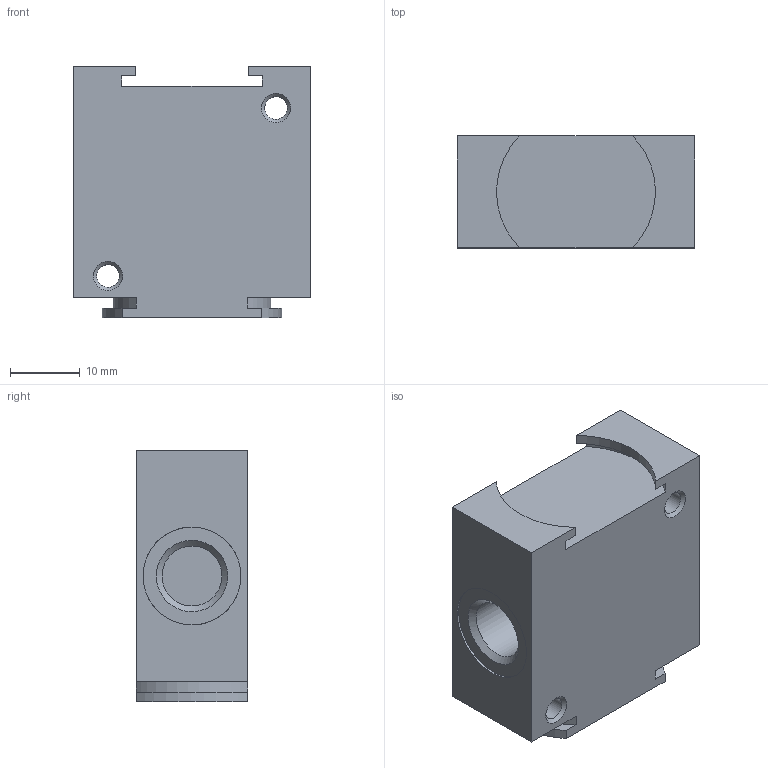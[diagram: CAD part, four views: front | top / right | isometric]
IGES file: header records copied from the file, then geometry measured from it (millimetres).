
Global section: file name: 300_06_00; native system: Autodesk Inventor 2014; preprocessor: unknown; author: A. Manieri; organization: Pneumax S.p.A.; date: 20161004.165016; units: millimetre
Bounding box: 34 x 16 x 36 mm (x, y, z)
Volume: 17229.8 mm3; surface area: 5306.1 mm2
Topology: 1 solids, 1 shells, 31 faces, 86 edges, 59 vertices
Faces by surface type: bspline 31
